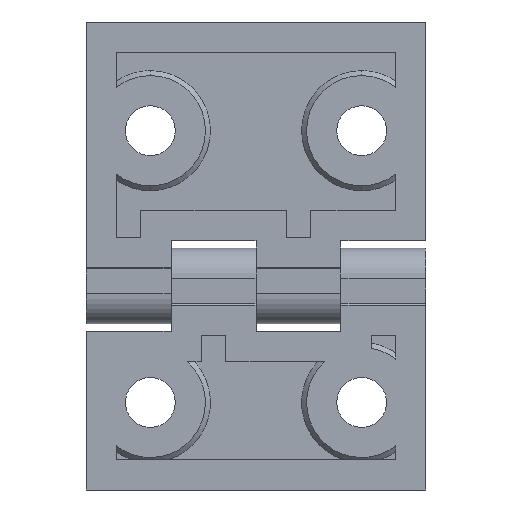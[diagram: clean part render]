
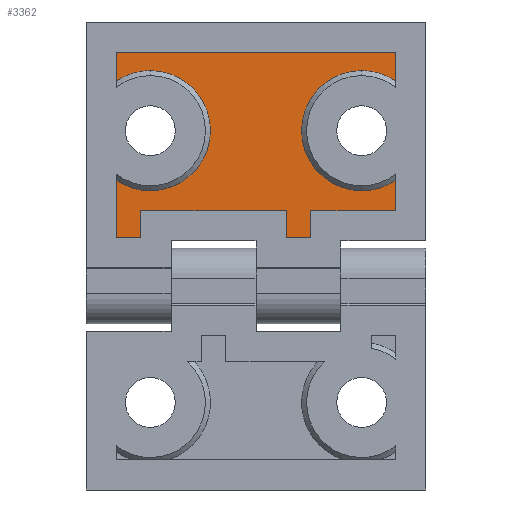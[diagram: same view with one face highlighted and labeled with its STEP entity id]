
A CAD part, front view. The second image highlights one B-rep face of the part: STEP entity #3362.
In plain terms, the highlighted planar face has unit normal (0, -1, 0).
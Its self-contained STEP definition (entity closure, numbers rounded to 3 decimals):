
#29 = VECTOR ( 'NONE', #4834, 1000. ) ;
#37 = VERTEX_POINT ( 'NONE', #293 ) ;
#51 = CARTESIAN_POINT ( 'NONE',  ( 14., 2., -20.6 ) ) ;
#55 = CARTESIAN_POINT ( 'NONE',  ( 22.5, 2., -6.141 ) ) ;
#215 = CARTESIAN_POINT ( 'NONE',  ( 22.5, 2., -10. ) ) ;
#235 = CARTESIAN_POINT ( 'NONE',  ( -14., 2., -20.6 ) ) ;
#239 = AXIS2_PLACEMENT_3D ( 'NONE', #1205, #4526, #4181 ) ;
#241 = DIRECTION ( 'NONE',  ( -1., 0., 0. ) ) ;
#252 = CIRCLE ( 'NONE', #2820, 7.957 ) ;
#293 = CARTESIAN_POINT ( 'NONE',  ( -4., 2., -10. ) ) ;
#305 = EDGE_CURVE ( 'NONE', #4755, #4559, #4288, .T. ) ;
#318 = EDGE_CURVE ( 'NONE', #2452, #4386, #794, .T. ) ;
#354 = CARTESIAN_POINT ( 'NONE',  ( -18.5, 2., -14.038 ) ) ;
#368 = EDGE_LOOP ( 'NONE', ( #3508, #1388, #3426, #1236, #3592, #2508, #3168, #1761, #2947, #1426, #1140, #4533, #2390, #4369, #2054, #1844, #2533, #385 ) ) ;
#383 = EDGE_CURVE ( 'NONE', #1655, #2452, #2406, .T. ) ;
#385 = ORIENTED_EDGE ( 'NONE', *, *, #3331, .T. ) ;
#424 = CIRCLE ( 'NONE', #3387, 7.957 ) ;
#460 = VERTEX_POINT ( 'NONE', #3435 ) ;
#499 = DIRECTION ( 'NONE',  ( -1., 0., 0. ) ) ;
#504 = AXIS2_PLACEMENT_3D ( 'NONE', #235, #2792, #4296 ) ;
#546 = DIRECTION ( 'NONE',  ( 0., 1., 0. ) ) ;
#576 = VERTEX_POINT ( 'NONE', #1571 ) ;
#590 = LINE ( 'NONE', #1344, #1567 ) ;
#606 = CARTESIAN_POINT ( 'NONE',  ( 22.5, 2., -10. ) ) ;
#642 = AXIS2_PLACEMENT_3D ( 'NONE', #1389, #1098, #4791 ) ;
#724 = EDGE_CURVE ( 'NONE', #1479, #460, #4568, .T. ) ;
#751 = DIRECTION ( 'NONE',  ( 0., 0., -1. ) ) ;
#794 = LINE ( 'NONE', #2283, #1547 ) ;
#892 = CIRCLE ( 'NONE', #504, 7.957 ) ;
#901 = DIRECTION ( 'NONE',  ( -1., 0., 0. ) ) ;
#1002 = DIRECTION ( 'NONE',  ( 0., 0., -1. ) ) ;
#1039 = VERTEX_POINT ( 'NONE', #2615 ) ;
#1098 = DIRECTION ( 'NONE',  ( 0., 1., 0. ) ) ;
#1110 = CARTESIAN_POINT ( 'NONE',  ( 18.5, 2., -33.5 ) ) ;
#1138 = DIRECTION ( 'NONE',  ( 0., 0., -1. ) ) ;
#1140 = ORIENTED_EDGE ( 'NONE', *, *, #4100, .T. ) ;
#1196 = AXIS2_PLACEMENT_3D ( 'NONE', #2681, #2631, #2310 ) ;
#1205 = CARTESIAN_POINT ( 'NONE',  ( 22.5, 2., -33.5 ) ) ;
#1206 = CARTESIAN_POINT ( 'NONE',  ( -7.25, 2., -6.141 ) ) ;
#1212 = VERTEX_POINT ( 'NONE', #2366 ) ;
#1219 = CARTESIAN_POINT ( 'NONE',  ( -18.5, 2., -31. ) ) ;
#1236 = ORIENTED_EDGE ( 'NONE', *, *, #1932, .F. ) ;
#1279 = DIRECTION ( 'NONE',  ( 0., 0., 1. ) ) ;
#1287 = VECTOR ( 'NONE', #4059, 1000. ) ;
#1344 = CARTESIAN_POINT ( 'NONE',  ( 15.25, 2., -33.5 ) ) ;
#1356 = EDGE_CURVE ( 'NONE', #576, #4755, #252, .T. ) ;
#1362 = VERTEX_POINT ( 'NONE', #2293 ) ;
#1388 = ORIENTED_EDGE ( 'NONE', *, *, #3934, .T. ) ;
#1389 = CARTESIAN_POINT ( 'NONE',  ( -14., 2., -20.6 ) ) ;
#1395 = CARTESIAN_POINT ( 'NONE',  ( -14., 2., -20.6 ) ) ;
#1418 = DIRECTION ( 'NONE',  ( 0., 1., 0. ) ) ;
#1424 = LINE ( 'NONE', #1110, #1287 ) ;
#1426 = ORIENTED_EDGE ( 'NONE', *, *, #2847, .T. ) ;
#1479 = VERTEX_POINT ( 'NONE', #354 ) ;
#1488 = VECTOR ( 'NONE', #3574, 1000. ) ;
#1508 = VECTOR ( 'NONE', #1279, 1000. ) ;
#1547 = VECTOR ( 'NONE', #3780, 1000. ) ;
#1563 = VERTEX_POINT ( 'NONE', #2581 ) ;
#1567 = VECTOR ( 'NONE', #1002, 1000. ) ;
#1571 = CARTESIAN_POINT ( 'NONE',  ( 14., 2., -28.557 ) ) ;
#1582 = VECTOR ( 'NONE', #499, 1000. ) ;
#1655 = VERTEX_POINT ( 'NONE', #1219 ) ;
#1689 = EDGE_CURVE ( 'NONE', #4386, #576, #3929, .T. ) ;
#1761 = ORIENTED_EDGE ( 'NONE', *, *, #724, .F. ) ;
#1783 = EDGE_CURVE ( 'NONE', #1039, #460, #3586, .T. ) ;
#1844 = ORIENTED_EDGE ( 'NONE', *, *, #1356, .T. ) ;
#1850 = LINE ( 'NONE', #3703, #3699 ) ;
#1911 = DIRECTION ( 'NONE',  ( 0., 1., 0. ) ) ;
#1932 = EDGE_CURVE ( 'NONE', #1563, #37, #2482, .T. ) ;
#1961 = CARTESIAN_POINT ( 'NONE',  ( 22.5, 2., -31. ) ) ;
#2019 = DIRECTION ( 'NONE',  ( 0., 0., -1. ) ) ;
#2021 = CARTESIAN_POINT ( 'NONE',  ( 22.5, 2., -6.141 ) ) ;
#2054 = ORIENTED_EDGE ( 'NONE', *, *, #1689, .T. ) ;
#2078 = CARTESIAN_POINT ( 'NONE',  ( 15.25, 2., -10. ) ) ;
#2134 = VERTEX_POINT ( 'NONE', #2304 ) ;
#2160 = CARTESIAN_POINT ( 'NONE',  ( 18.5, 2., -14.038 ) ) ;
#2283 = CARTESIAN_POINT ( 'NONE',  ( 18.5, 2., -33.5 ) ) ;
#2293 = CARTESIAN_POINT ( 'NONE',  ( -14., 2., -28.557 ) ) ;
#2304 = CARTESIAN_POINT ( 'NONE',  ( -18.5, 2., -27.162 ) ) ;
#2310 = DIRECTION ( 'NONE',  ( 0., 0., -1. ) ) ;
#2366 = CARTESIAN_POINT ( 'NONE',  ( 18.5, 2., -6.141 ) ) ;
#2390 = ORIENTED_EDGE ( 'NONE', *, *, #383, .T. ) ;
#2406 = LINE ( 'NONE', #1961, #2599 ) ;
#2411 = EDGE_CURVE ( 'NONE', #1479, #3148, #892, .T. ) ;
#2452 = VERTEX_POINT ( 'NONE', #4418 ) ;
#2482 = LINE ( 'NONE', #4811, #29 ) ;
#2508 = ORIENTED_EDGE ( 'NONE', *, *, #3212, .T. ) ;
#2533 = ORIENTED_EDGE ( 'NONE', *, *, #305, .T. ) ;
#2581 = CARTESIAN_POINT ( 'NONE',  ( -4., 2., -6.141 ) ) ;
#2599 = VECTOR ( 'NONE', #3819, 1000. ) ;
#2615 = CARTESIAN_POINT ( 'NONE',  ( -7.25, 2., -10. ) ) ;
#2631 = DIRECTION ( 'NONE',  ( 0., 1., 0. ) ) ;
#2681 = CARTESIAN_POINT ( 'NONE',  ( 14., 2., -20.6 ) ) ;
#2689 = EDGE_CURVE ( 'NONE', #1655, #2134, #3128, .T. ) ;
#2695 = CARTESIAN_POINT ( 'NONE',  ( 15.25, 2., -6.141 ) ) ;
#2703 = CARTESIAN_POINT ( 'NONE',  ( -18.5, 2., -33.5 ) ) ;
#2738 = CIRCLE ( 'NONE', #642, 7.957 ) ;
#2792 = DIRECTION ( 'NONE',  ( 0., 1., 0. ) ) ;
#2820 = AXIS2_PLACEMENT_3D ( 'NONE', #51, #1911, #3403 ) ;
#2838 = VECTOR ( 'NONE', #901, 1000. ) ;
#2847 = EDGE_CURVE ( 'NONE', #3148, #1362, #424, .T. ) ;
#2913 = EDGE_CURVE ( 'NONE', #1212, #4758, #3131, .T. ) ;
#2947 = ORIENTED_EDGE ( 'NONE', *, *, #2411, .T. ) ;
#2952 = VERTEX_POINT ( 'NONE', #1206 ) ;
#3128 = LINE ( 'NONE', #4621, #1508 ) ;
#3131 = LINE ( 'NONE', #55, #1582 ) ;
#3148 = VERTEX_POINT ( 'NONE', #3488 ) ;
#3168 = ORIENTED_EDGE ( 'NONE', *, *, #1783, .T. ) ;
#3194 = CARTESIAN_POINT ( 'NONE',  ( 18.5, 2., -27.162 ) ) ;
#3212 = EDGE_CURVE ( 'NONE', #2952, #1039, #1850, .T. ) ;
#3312 = VECTOR ( 'NONE', #4590, 1000. ) ;
#3331 = EDGE_CURVE ( 'NONE', #4559, #1212, #1424, .T. ) ;
#3362 = ADVANCED_FACE ( 'NONE', ( #3867 ), #3790, .T. ) ;
#3387 = AXIS2_PLACEMENT_3D ( 'NONE', #1395, #546, #2019 ) ;
#3403 = DIRECTION ( 'NONE',  ( 0., 0., -1. ) ) ;
#3426 = ORIENTED_EDGE ( 'NONE', *, *, #4351, .T. ) ;
#3435 = CARTESIAN_POINT ( 'NONE',  ( -18.5, 2., -10. ) ) ;
#3488 = CARTESIAN_POINT ( 'NONE',  ( -14., 2., -12.643 ) ) ;
#3508 = ORIENTED_EDGE ( 'NONE', *, *, #2913, .T. ) ;
#3559 = EDGE_CURVE ( 'NONE', #1563, #2952, #3596, .T. ) ;
#3574 = DIRECTION ( 'NONE',  ( -1., 0., 0. ) ) ;
#3586 = LINE ( 'NONE', #606, #2838 ) ;
#3592 = ORIENTED_EDGE ( 'NONE', *, *, #3559, .T. ) ;
#3596 = LINE ( 'NONE', #2021, #1488 ) ;
#3699 = VECTOR ( 'NONE', #1138, 1000. ) ;
#3703 = CARTESIAN_POINT ( 'NONE',  ( -7.25, 2., -33.5 ) ) ;
#3749 = CARTESIAN_POINT ( 'NONE',  ( 14., 2., -12.643 ) ) ;
#3780 = DIRECTION ( 'NONE',  ( 0., 0., 1. ) ) ;
#3790 = PLANE ( 'NONE',  #239 ) ;
#3819 = DIRECTION ( 'NONE',  ( 1., 0., 0. ) ) ;
#3867 = FACE_OUTER_BOUND ( 'NONE', #368, .T. ) ;
#3916 = VECTOR ( 'NONE', #241, 1000. ) ;
#3929 = CIRCLE ( 'NONE', #1196, 7.957 ) ;
#3934 = EDGE_CURVE ( 'NONE', #4758, #4456, #590, .T. ) ;
#4059 = DIRECTION ( 'NONE',  ( 0., 0., 1. ) ) ;
#4100 = EDGE_CURVE ( 'NONE', #1362, #2134, #2738, .T. ) ;
#4121 = CARTESIAN_POINT ( 'NONE',  ( 14., 2., -20.6 ) ) ;
#4181 = DIRECTION ( 'NONE',  ( 0., 0., -1. ) ) ;
#4288 = CIRCLE ( 'NONE', #4749, 7.957 ) ;
#4296 = DIRECTION ( 'NONE',  ( 0., 0., -1. ) ) ;
#4300 = LINE ( 'NONE', #215, #3916 ) ;
#4351 = EDGE_CURVE ( 'NONE', #4456, #37, #4300, .T. ) ;
#4369 = ORIENTED_EDGE ( 'NONE', *, *, #318, .T. ) ;
#4386 = VERTEX_POINT ( 'NONE', #3194 ) ;
#4418 = CARTESIAN_POINT ( 'NONE',  ( 18.5, 2., -31. ) ) ;
#4456 = VERTEX_POINT ( 'NONE', #2078 ) ;
#4526 = DIRECTION ( 'NONE',  ( 0., -1., 0. ) ) ;
#4533 = ORIENTED_EDGE ( 'NONE', *, *, #2689, .F. ) ;
#4559 = VERTEX_POINT ( 'NONE', #2160 ) ;
#4568 = LINE ( 'NONE', #2703, #3312 ) ;
#4590 = DIRECTION ( 'NONE',  ( 0., 0., 1. ) ) ;
#4621 = CARTESIAN_POINT ( 'NONE',  ( -18.5, 2., -33.5 ) ) ;
#4749 = AXIS2_PLACEMENT_3D ( 'NONE', #4121, #1418, #751 ) ;
#4755 = VERTEX_POINT ( 'NONE', #3749 ) ;
#4758 = VERTEX_POINT ( 'NONE', #2695 ) ;
#4791 = DIRECTION ( 'NONE',  ( 0., 0., -1. ) ) ;
#4811 = CARTESIAN_POINT ( 'NONE',  ( -4., 2., -6. ) ) ;
#4834 = DIRECTION ( 'NONE',  ( 0., 0., -1. ) ) ;
